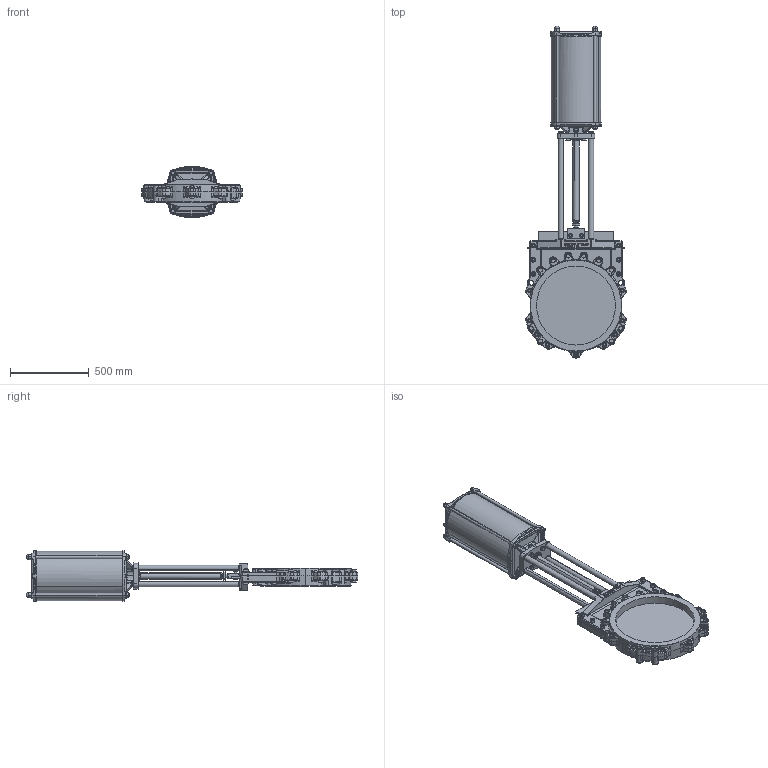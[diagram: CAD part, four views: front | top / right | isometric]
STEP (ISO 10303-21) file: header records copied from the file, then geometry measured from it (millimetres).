
FILE_DESCRIPTION (( 'STEP AP214' ), '1' );
FILE_NAME ('VSC DN 0500.STEP', '2015-09-23T11:16:22', ( 'admin' ), ( 'Hewlett-Packard Company' ), 'SwSTEP 2.0', 'SolidWorks 2013', '' );
FILE_SCHEMA (( 'AUTOMOTIVE_DESIGN' ));
Length unit declared in the file: millimetre
Products named in the file (1): VSC DN 0500
Bounding box: 638.03 x 2101.99 x 320 mm (x, y, z)
Volume: 34567049.9 mm3; surface area: 3975115.6 mm2
Topology: 101 solids, 113 shells, 4426 faces, 10216 edges, 5903 vertices
Faces by surface type: plane 1236, cylinder 1053, bspline 874, cone 866, torus 339, sphere 58
Entity records: 212835 total; most frequent: CARTESIAN_POINT 70772, ORIENTED_EDGE 19908, DIRECTION 18346, EDGE_CURVE 9954, AXIS2_PLACEMENT_3D 7627, VERTEX_POINT 5887, EDGE_LOOP 4763, UNCERTAINTY_MEASURE_WITH_UNIT 4529
